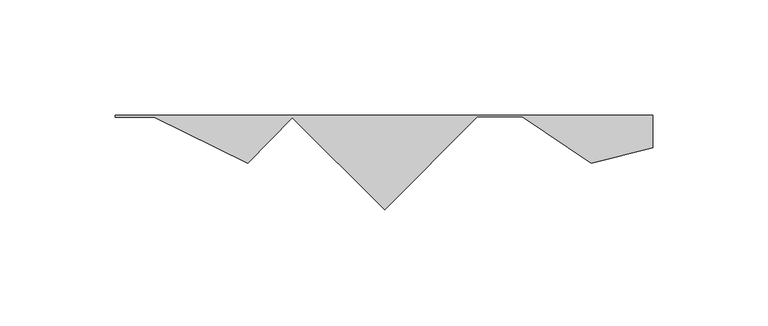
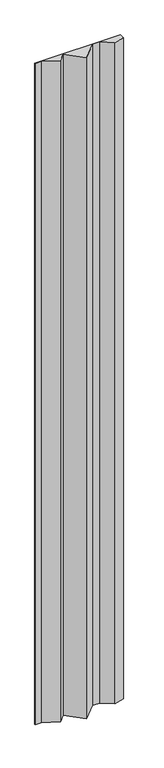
"""IFC4 building model written with IfcOpenShell, lengths in millimetres: plate geometry, ATELIERS 3S_GLACE PISSAILLAS 1000_VERTICAL : AZURO."""

from ifc_helpers import new_model, si_unit, origin, origin_with_axes, place, context, project, spatial, polyline, outline, extrude, source, transform, mapped, element, save


def plate_0162e0f9(model_context):
    return source(origin(), model_context, "Body", "SweptSolid", [
        extrude(outline(polyline([(-99.7027881, -0.864757), (-116.7499998, -0.864757), (-116.7499998, 0.0), (116.7499998, 0.0), (116.7499998, -14.1457934), (90.1008746, -20.8080747), (60.0137625, -0.75), (40.5515044, -0.75), (0.2408442, -41.0606602), (-39.753716, -1.0660999), (-59.2001557, -20.9135393), (-99.7027881, -0.864757)])), origin_with_axes(), (0.0, 0.0, 1.0), 1900.0),
    ])


if __name__ == "__main__":
    model = new_model("IFC4")
    model_context = context("Model", 3, world=origin())
    ifc_project = project(units=[si_unit("LENGTHUNIT", "METRE", prefix="MILLI")], contexts=[model_context])
    site = spatial("IfcSite", under=ifc_project)
    building = spatial("IfcBuilding", under=site)
    placement = place(None, origin())
    plate_shape = plate_0162e0f9(model_context)
    element("IfcPlate", 1, ObjectType="ATELIERS 3S_GLACE PISSAILLAS 1000_VERTICAL : AZURO", at=placement, inside=building, context=model_context, shape_type="MappedRepresentation", body=[
        mapped(plate_shape, transform((0.0, 0.0, 0.0), x_axis=(1.0, 0.0, 0.0), y_axis=(0.0, 1.0, 0.0), z_axis=(0.0, 0.0, 1.0))),
    ])
    save(model, "model.ifc")
